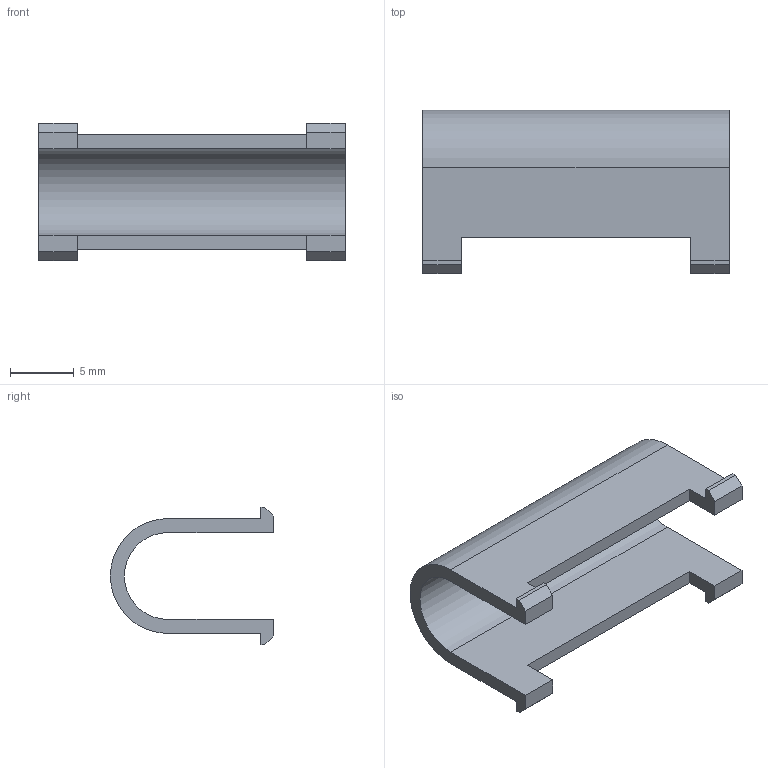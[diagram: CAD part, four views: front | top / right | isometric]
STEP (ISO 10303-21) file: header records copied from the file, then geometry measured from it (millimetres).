
FILE_DESCRIPTION (( 'STEP AP203' ), '1' );
FILE_NAME ('蟀諉諶.STEP', '2023-07-04T11:35:30', ( 'shan123' ), ( 'Razer' ), 'SwSTEP 2.0', 'SolidWorks 2018', '' );
FILE_SCHEMA (( 'CONFIG_CONTROL_DESIGN' ));
Length unit declared in the file: millimetre
Products named in the file (1): 蟀諉諶
Bounding box: 24 x 12.8 x 10.8 mm (x, y, z)
Volume: 662.8 mm3; surface area: 1341.7 mm2
Topology: 1 solids, 1 shells, 30 faces, 84 edges, 56 vertices
Faces by surface type: plane 28, cylinder 2
Entity records: 1029 total; most frequent: CARTESIAN_POINT 171, ORIENTED_EDGE 168, DIRECTION 150, EDGE_CURVE 84, VECTOR 80, LINE 80, VERTEX_POINT 56, AXIS2_PLACEMENT_3D 35
